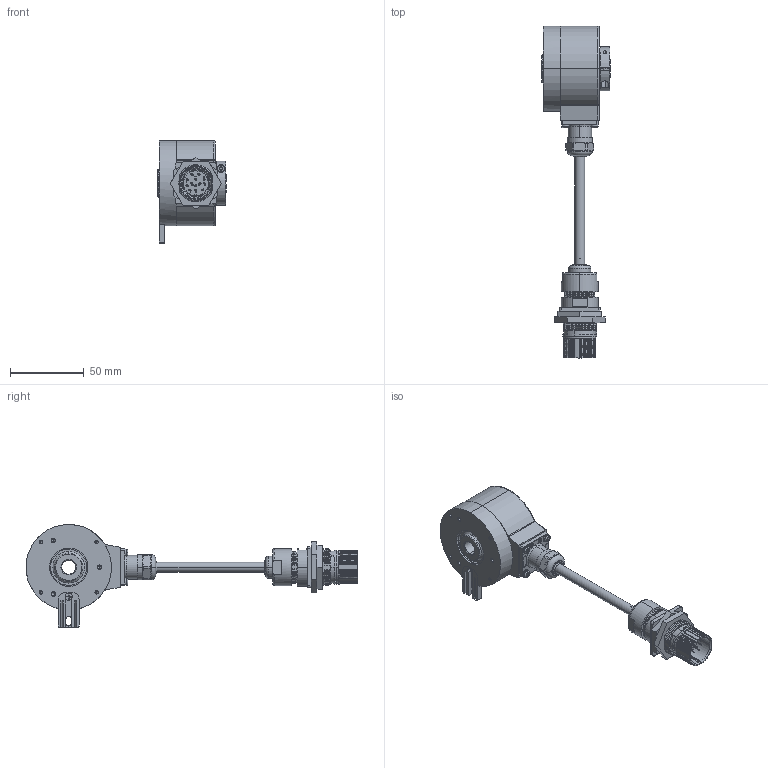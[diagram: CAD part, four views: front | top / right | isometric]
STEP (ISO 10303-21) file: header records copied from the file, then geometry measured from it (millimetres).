
FILE_DESCRIPTION (( 'STEP AP203' ), '1' );
FILE_NAME ('K58I.OXX.XXXXX.XC1152A.6XR14.XXXX.step', '2025-12-08T11:18:02', ( '' ), ( '' ), 'SwSTEP 2.0', 'SolidWorks 2021', '' );
FILE_SCHEMA (( 'CONFIG_CONTROL_DESIGN' ));
Length unit declared in the file: millimetre
Products named in the file (1): K58I.OXX.XXXXX.XC1152A.6XR14.XXXX
Bounding box: 46.5 x 225.35 x 69.9 mm (x, y, z)
Volume: 138153.9 mm3; surface area: 58318.8 mm2
Topology: 33 solids, 33 shells, 1925 faces, 4914 edges, 3142 vertices
Faces by surface type: cylinder 708, plane 587, cone 393, bspline 124, torus 71, sphere 42
Entity records: 65594 total; most frequent: CARTESIAN_POINT 19960, ORIENTED_EDGE 9752, DIRECTION 9327, EDGE_CURVE 4876, AXIS2_PLACEMENT_3D 3661, VERTEX_POINT 3142, EDGE_LOOP 2108, LINE 2005
